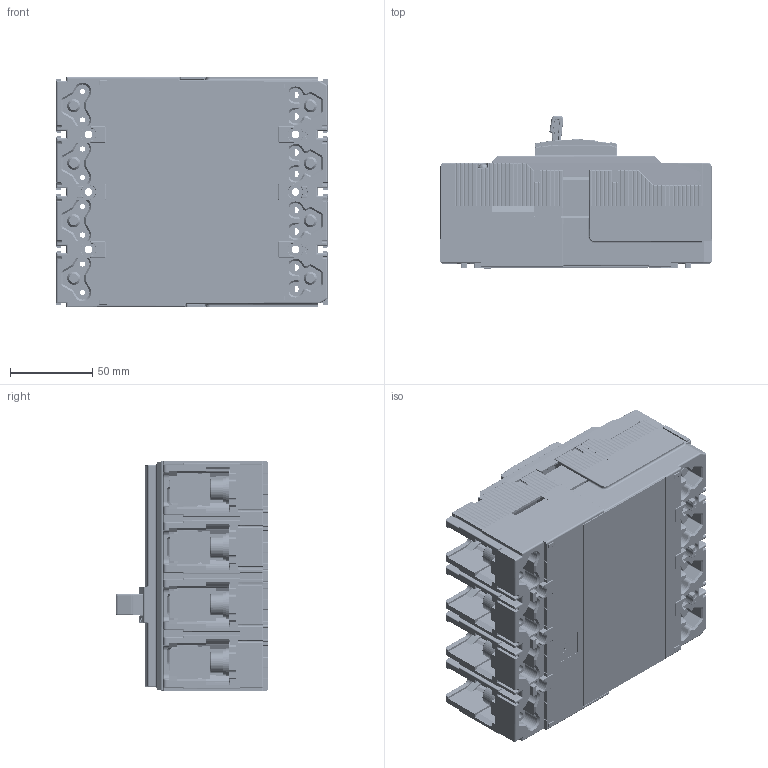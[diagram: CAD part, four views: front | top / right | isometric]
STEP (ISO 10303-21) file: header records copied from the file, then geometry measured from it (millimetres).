
FILE_DESCRIPTION((''),'2;1');
FILE_NAME('EZC250_4P_ASM_ASM','2018-12-06T',('SESA42392'),('Schneider-Electric'),'PRO/ENGINEER BY PARAMETRIC TECHNOLOGY CORPORATION, 2015440','PRO/ENGINEER BY PARAMETRIC TECHNOLOGY CORPORATION, 2015440','');
FILE_SCHEMA(('CONFIG_CONTROL_DESIGN'));
Products named in the file (63): _250AF-4P-MCCB_4P-MCB_G___B_V-4; _250AF-4P-MCCB_4P-MCB_G___B_V-9; _250AF-4P-MCCB_4P-MCB_G___B_-22; _250AF-4P-MCCB__L_W_________-34; _250AF-4P-MCCB__L_W_________-46; _250AF-4P-MCCB__L_W_________-58; _250AF-4P-MCCB__L_W_________-70; _250AF-4P-MCCB__L_W__J_O___P-82; _250AF-4P-MCCB__L_W__J_O___P-94; _250AF-4P-MCCB__L_W__J_O___-106; _250AF-4P-MCCB__L_W__J_O___-118; _250AF-4P-MCCB__L_W__J_O___-130; _250AF-4P-MCCB__L_W__J_O___-142; _250AF-4P-MCCB__L_W__J_O___-154; _250AF-4P-MCCB__L_W__J_O___-166; _250AF-4P-MCCB__L_W__J_O___-178; _250AF-4P-MCCB__L_W__J_O___-190; _250AF-4P-MCCB__L_W__J_O___-202; _250AF-4P-MCCB__L_W__J_O___-214; _250AF-4P-MCCB__L_W__J_O___-226; _250AF-4P-MCCB__L_W__J_O___-238; _250AF-4P-MCCB__L_W__J_O___-250; _250AF-4P-MCCB__L_W__J_O___-262; _250AF-4P-MCCB__L_W__J_O___-274; _250AF-4P-MCCB__L_W__D_____-310; _250AF-4P-MCCB__L_W__D_____-322; _250AF-4P-MCCB__L_W__D_____-334; _250AF-4P-MCCB__L_W__D_____-346; _250AF-4P-MCCB__P___X____C_O___; _250AF-4P-MCCB__P___X____T___1; _250AF-4P-MCCB__P___X__P___X_1; _250AF-4P-MCCB______Q_T______C_; _250AF-4P-MCCB______Q_T____-406; _250AF-4P-MCCB______Q_T____-418; _250AF-4P-MCCB______Q_T____-430; _250AF-4P-MCCB______Q_S______C_; _250AF-4P-MCCB______Q_S____-454; _250AF-4P-MCCB______Q_S____-466; _250AF-4P-MCCB______Q_S____-478; _250AF-4P-MCCB______Q_N______C_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
Assembly tree (62 placements, depth 4):
  EZC250_4P_ASM_ASM
    EZC250_4P_ASM_1_ASM
      ASSEMBLY_1_ASM_1_ASM
        _250AF-4P-MCCB_4P-MCB_G___B_V-4
        _250AF-4P-MCCB_4P-MCB_G___B_V-9
        _250AF-4P-MCCB_4P-MCB_G___B_-22
        _250AF-4P-MCCB__L_W_________-34
        _250AF-4P-MCCB__L_W_________-46
        _250AF-4P-MCCB__L_W_________-58
        _250AF-4P-MCCB__L_W_________-70
        _250AF-4P-MCCB__L_W__J_O___P-82
        _250AF-4P-MCCB__L_W__J_O___P-94
        _250AF-4P-MCCB__L_W__J_O___-106
        _250AF-4P-MCCB__L_W__J_O___-118
        _250AF-4P-MCCB__L_W__J_O___-130
        _250AF-4P-MCCB__L_W__J_O___-142
        _250AF-4P-MCCB__L_W__J_O___-154
        _250AF-4P-MCCB__L_W__J_O___-166
        _250AF-4P-MCCB__L_W__J_O___-178
        _250AF-4P-MCCB__L_W__J_O___-190
        _250AF-4P-MCCB__L_W__J_O___-202
        _250AF-4P-MCCB__L_W__J_O___-214
        _250AF-4P-MCCB__L_W__J_O___-226
        _250AF-4P-MCCB__L_W__J_O___-238
        _250AF-4P-MCCB__L_W__J_O___-250
        _250AF-4P-MCCB__L_W__J_O___-262
        _250AF-4P-MCCB__L_W__J_O___-274
        _250AF-4P-MCCB__L_W__D_____-310
        _250AF-4P-MCCB__L_W__D_____-322
        _250AF-4P-MCCB__L_W__D_____-334
        _250AF-4P-MCCB__L_W__D_____-346
        _250AF-4P-MCCB__P___X____C_O___
        _250AF-4P-MCCB__P___X____T___1
        _250AF-4P-MCCB__P___X__P___X_1
        _250AF-4P-MCCB______Q_T______C_
        _250AF-4P-MCCB______Q_T____-406
        _250AF-4P-MCCB______Q_T____-418
        _250AF-4P-MCCB______Q_T____-430
        _250AF-4P-MCCB______Q_S______C_
        _250AF-4P-MCCB______Q_S____-454
        _250AF-4P-MCCB______Q_S____-466
        _250AF-4P-MCCB______Q_S____-478
        _250AF-4P-MCCB______Q_N______C_
        _250AF-4P-MCCB______Q_N____-502
        _250AF-4P-MCCB______Q_N____-514
        _250AF-4P-MCCB______Q_N____-526
        _250AF-4P-MCCB______Q_R______C_
        _250AF-4P-MCCB______Q_R____-550
        _250AF-4P-MCCB______Q_R____-562
        _250AF-4P-MCCB______Q_R____-574
        _250AF-4P-MCCB__J_O___4P-MC-586
        _250AF-4P-MCCB__J_O____G___-598
        _250AF-4P-MCCB__J_O____G___-610
        _250AF-4P-MCCB__J_O____J_O___A_
        _250AF-4P-MCCB__J_O____O_L_1
        _250AF-4P-MCCB__J_O___250AF-4P-
        _250AF-4P-MCCB__J_O___4P-MC-658
        _250AF-4P-MCCB_____________-670
        _250AF-4P-MCCB_____________-682
        _250AF-4P-MCCB_____________-694
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Bounding box: 165 x 93.01 x 140 mm (x, y, z)
Volume: 607357.2 mm3; surface area: 392744.6 mm2
Topology: 57 solids, 63 shells, 10244 faces, 28640 edges, 18580 vertices
Faces by surface type: plane 6076, cylinder 3112, torus 352, bspline 321, cone 206, extrusion 72, sphere 71, revolution 34
Entity records: 444566 total; most frequent: CARTESIAN_POINT 179835, ORIENTED_EDGE 57015, DIRECTION 53009, EDGE_CURVE 28519, VECTOR 19083, LINE 19011, VERTEX_POINT 18580, AXIS2_PLACEMENT_3D 16946
